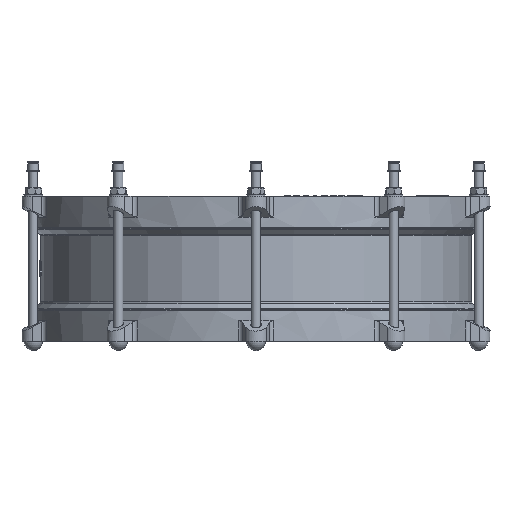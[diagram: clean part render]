
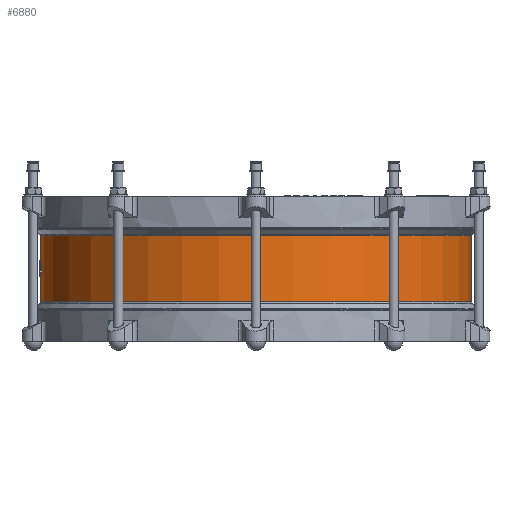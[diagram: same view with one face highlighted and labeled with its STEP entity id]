
A CAD part, left-side view. The second image highlights one B-rep face of the part: STEP entity #6880.
In plain terms, the highlighted cylindrical face has radius 325 mm (diameter 650 mm), a full revolution.
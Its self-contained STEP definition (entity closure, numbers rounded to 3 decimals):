
#6880=ADVANCED_FACE('',(#12611,#12613),#12615,.T.);
#12611=FACE_OUTER_BOUND('',#12612,.T.);
#12612=EDGE_LOOP('',(#18893));
#12613=FACE_OUTER_BOUND('',#12614,.T.);
#12614=EDGE_LOOP('',(#18894));
#12615=CYLINDRICAL_SURFACE('',#12616,325.);
#12616=AXIS2_PLACEMENT_3D('',#12617,#12618,#12619);
#12617=CARTESIAN_POINT('',(0.,0.,51.3));
#12618=DIRECTION('',(0.,0.,-1.));
#12619=DIRECTION('',(0.,1.,0.));
#18893=ORIENTED_EDGE('',*,*,#21489,.T.);
#18894=ORIENTED_EDGE('',*,*,#21490,.F.);
#21489=EDGE_CURVE('',#25179,#25179,#25180,.T.);
#21490=EDGE_CURVE('',#25181,#25181,#25182,.T.);
#25179=VERTEX_POINT('',#38918);
#25180=CIRCLE('',#38919,325.);
#25181=VERTEX_POINT('',#38923);
#25182=CIRCLE('',#38924,325.);
#38918=CARTESIAN_POINT('',(0.,325.,49.851));
#38919=AXIS2_PLACEMENT_3D('',#38920,#38921,#38922);
#38920=CARTESIAN_POINT('',(0.,0.,49.851));
#38921=DIRECTION('',(0.,0.,-1.));
#38922=DIRECTION('',(0.,1.,0.));
#38923=CARTESIAN_POINT('',(0.,325.,-49.851));
#38924=AXIS2_PLACEMENT_3D('',#38925,#38926,#38927);
#38925=CARTESIAN_POINT('',(0.,0.,-49.851));
#38926=DIRECTION('',(0.,0.,-1.));
#38927=DIRECTION('',(0.,1.,0.));
